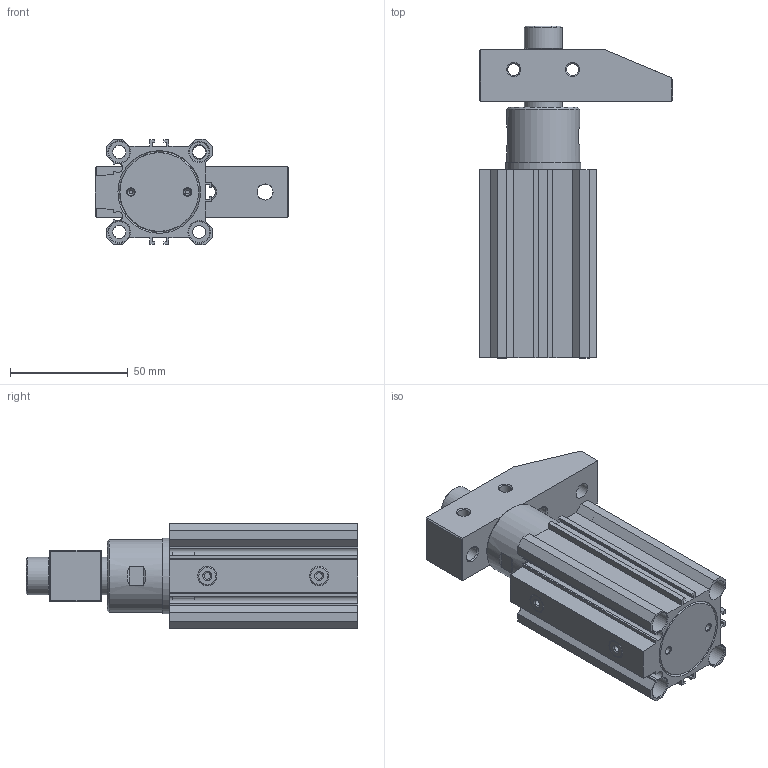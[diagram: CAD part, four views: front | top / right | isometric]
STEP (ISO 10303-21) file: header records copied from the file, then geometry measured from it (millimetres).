
FILE_DESCRIPTION(/* description */ ('STEP AP203'),/* implementation_level */ '2;1');
FILE_NAME(/* name */ 'E:\SERWER_ZAPAS\MODELE brakujace\PNEUMATIC\PB(STEP)\pbs-3感应式转角缸\PBS-32R_ZAMKNIETY.stp',/* time_stamp */ '2019-02-01T14:53:56+01:00',/* author */ ('Admin'),/* organization */ ('Microsoft'),/* preprocessor_version */ 'ST-DEVELOPER v17.2',/* originating_system */ 'Autodesk Inventor 2019',/* authorisation */ '');
FILE_SCHEMA (('AUTOMOTIVE_DESIGN { 1 0 10303 214 3 1 1 }'));
Length unit declared in the file: millimetre
Products named in the file (10): PBS-32R_ZAMKNIETY; s¸Ë_Ä¬ÈÏ; ±¾_Ä¬ÈÏ; Ñ¹±Û_Ä¬ÈÏ; µæÆ¬_Ä¬ÈÏ; »îÈû¸Ë_Ä¬ÈÏ; ºó_Ä¬ÈÏ; Ç°_Ä¬ÈÏ; m10_Ä¬ÈÏ; du_Ä¬ÈÏ
Assembly tree (11 placements, depth 2):
  PBS-32R_ZAMKNIETY
    s¸Ë_Ä¬ÈÏ
    ±¾_Ä¬ÈÏ
    µæÆ¬_Ä¬ÈÏ  x2
    Ñ¹±Û_Ä¬ÈÏ
    du_Ä¬ÈÏ  x2
    »îÈû¸Ë_Ä¬ÈÏ
    ºó_Ä¬ÈÏ
    Ç°_Ä¬ÈÏ
    m10_Ä¬ÈÏ
Bounding box: 82.05 x 141 x 45 mm (x, y, z)
Volume: 151523 mm3; surface area: 91237.9 mm2
Topology: 11 solids, 14 shells, 461 faces, 1259 edges, 871 vertices
Faces by surface type: plane 192, cylinder 112, cone 99, torus 56, bspline 2
Full cylindrical faces by diameter (mm): 2 x5, 2.808 x2, 3 x2, 4 x5, 5 x2, 5.5 x3, 6.2 x2, 6.8 x1, 8.2 x4, 8.5 x1, 9 x8, 10 x2, 10.5 x1, 12 x4, 14.1 x2, 14.2 x2, 16 x4, 16.1 x2, 16.2 x2, 18 x1, 18.3 x1, 20.3 x1, 21 x1, 22 x2, 24 x4, 26 x3, 28 x2, 29 x3, 30 x1, 31 x2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
Entity records: 15843 total; most frequent: CARTESIAN_POINT 3459, DIRECTION 2739, ORIENTED_EDGE 2418, EDGE_CURVE 1209, AXIS2_PLACEMENT_3D 1122, VERTEX_POINT 837, CIRCLE 645, EDGE_LOOP 540
